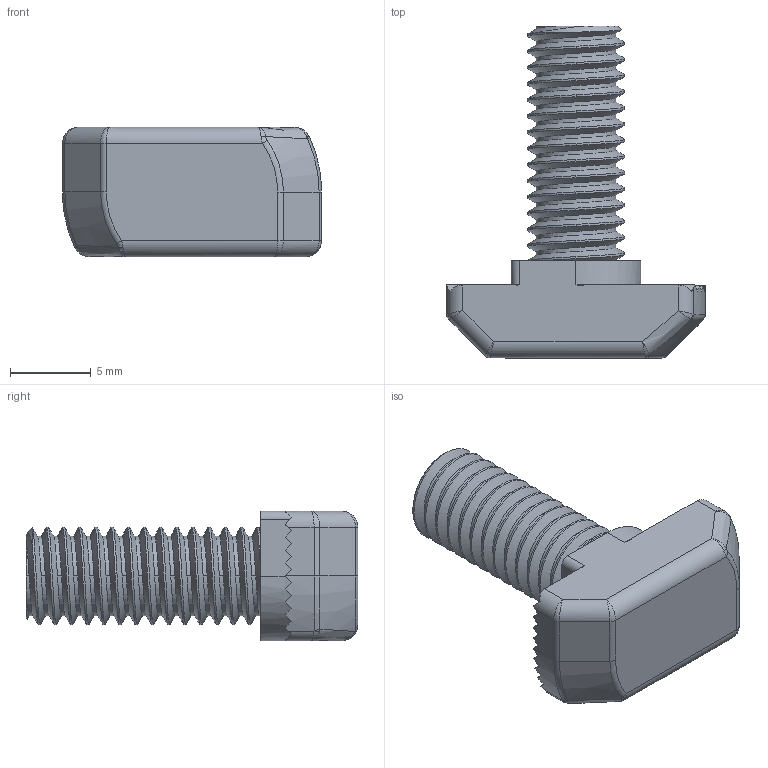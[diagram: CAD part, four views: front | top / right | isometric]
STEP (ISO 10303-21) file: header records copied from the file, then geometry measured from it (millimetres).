
FILE_DESCRIPTION(/* description */ ('STEP AP214'),/* implementation_level */ '2;1');
FILE_NAME(/* name */ 'Drop In Bolt - T-Slot - 30 Series - M6 - 16mm.step',/* time_stamp */ '2025-09-05T06:39:43+03:00',/* author */ (''),/* organization */ (''),/* preprocessor_version */ 'ST-DEVELOPER v20.1',/* originating_system */ 'Autodesk Translation Framework v14.10.0.0',/* authorisation */ '');
FILE_SCHEMA (('AUTOMOTIVE_DESIGN { 1 0 10303 214 3 1 1 }'));
Length unit declared in the file: millimetre
Products named in the file (1): Drop In Bolt - T-Slot - 30 Series - M6 - 16mm
Bounding box: 16 x 20.5 x 8 mm (x, y, z)
Volume: 907.1 mm3; surface area: 878.4 mm2
Topology: 1 solids, 1 shells, 130 faces, 352 edges, 218 vertices
Faces by surface type: plane 57, cylinder 49, bspline 17, torus 4, cone 3
Full cylindrical faces by diameter (mm): 4.917 x14, 6 x13
Entity records: 7619 total; most frequent: CARTESIAN_POINT 4576, ORIENTED_EDGE 688, DIRECTION 566, EDGE_CURVE 344, VERTEX_POINT 218, AXIS2_PLACEMENT_3D 203, LINE 160, VECTOR 160
